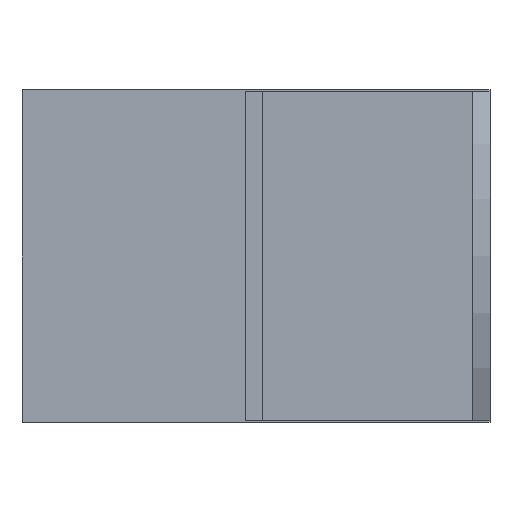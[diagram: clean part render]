
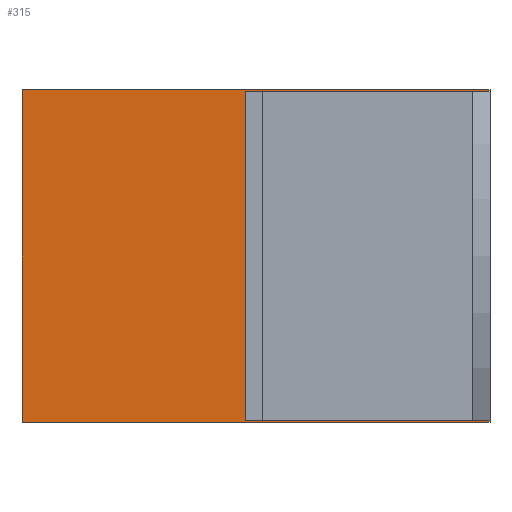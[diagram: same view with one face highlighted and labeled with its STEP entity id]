
A CAD part, front view. The second image highlights one B-rep face of the part: STEP entity #315.
In plain terms, the highlighted planar face has unit normal (0, -1, 0).
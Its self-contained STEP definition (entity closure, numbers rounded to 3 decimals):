
#18 = AXIS2_PLACEMENT_3D ( 'NONE', #1159, #976, #424 ) ;
#19 = DIRECTION ( 'NONE',  ( 0., 0., 1. ) ) ;
#33 = LINE ( 'NONE', #278, #460 ) ;
#52 = DIRECTION ( 'NONE',  ( 1., 0., 0. ) ) ;
#58 = ORIENTED_EDGE ( 'NONE', *, *, #1023, .T. ) ;
#95 = CARTESIAN_POINT ( 'NONE',  ( -16.3, 16.3, -21.9 ) ) ;
#97 = CARTESIAN_POINT ( 'NONE',  ( 14., 16.3, -22.1 ) ) ;
#99 = EDGE_CURVE ( 'NONE', #1172, #782, #33, .T. ) ;
#133 = FACE_OUTER_BOUND ( 'NONE', #205, .T. ) ;
#163 = DIRECTION ( 'NONE',  ( 0., 0., 1. ) ) ;
#167 = EDGE_CURVE ( 'NONE', #660, #951, #767, .T. ) ;
#171 = LINE ( 'NONE', #842, #1111 ) ;
#182 = VECTOR ( 'NONE', #345, 1000. ) ;
#205 = EDGE_LOOP ( 'NONE', ( #557, #58, #1059, #729, #438, #349, #1140, #1143 ) ) ;
#216 = DIRECTION ( 'NONE',  ( 0., 0., 1. ) ) ;
#259 = LINE ( 'NONE', #97, #441 ) ;
#277 = EDGE_CURVE ( 'NONE', #660, #495, #690, .T. ) ;
#278 = CARTESIAN_POINT ( 'NONE',  ( 14., 16.3, 22.1 ) ) ;
#282 = DIRECTION ( 'NONE',  ( -1., 0., 0. ) ) ;
#292 = CARTESIAN_POINT ( 'NONE',  ( -46., 16.3, -22.1 ) ) ;
#315 = ADVANCED_FACE ( 'NONE', ( #133 ), #1166, .T. ) ;
#329 = EDGE_CURVE ( 'NONE', #596, #782, #680, .T. ) ;
#336 = VERTEX_POINT ( 'NONE', #885 ) ;
#345 = DIRECTION ( 'NONE',  ( 1., 0., 0. ) ) ;
#349 = ORIENTED_EDGE ( 'NONE', *, *, #916, .F. ) ;
#378 = DIRECTION ( 'NONE',  ( 0., 0., 1. ) ) ;
#424 = DIRECTION ( 'NONE',  ( 0., 0., -1. ) ) ;
#438 = ORIENTED_EDGE ( 'NONE', *, *, #329, .F. ) ;
#441 = VECTOR ( 'NONE', #469, 1000. ) ;
#444 = VERTEX_POINT ( 'NONE', #738 ) ;
#460 = VECTOR ( 'NONE', #282, 1000. ) ;
#469 = DIRECTION ( 'NONE',  ( -1., 0., 0. ) ) ;
#478 = CARTESIAN_POINT ( 'NONE',  ( 16.3, 16.3, 22.1 ) ) ;
#495 = VERTEX_POINT ( 'NONE', #634 ) ;
#497 = EDGE_CURVE ( 'NONE', #444, #495, #171, .T. ) ;
#557 = ORIENTED_EDGE ( 'NONE', *, *, #167, .T. ) ;
#596 = VERTEX_POINT ( 'NONE', #292 ) ;
#618 = VECTOR ( 'NONE', #216, 1000. ) ;
#624 = CARTESIAN_POINT ( 'NONE',  ( -46., 16.3, 22.1 ) ) ;
#630 = VECTOR ( 'NONE', #163, 1000. ) ;
#634 = CARTESIAN_POINT ( 'NONE',  ( 16.3, 16.3, -21.9 ) ) ;
#654 = VECTOR ( 'NONE', #52, 1000. ) ;
#660 = VERTEX_POINT ( 'NONE', #1163 ) ;
#680 = LINE ( 'NONE', #1056, #618 ) ;
#685 = CARTESIAN_POINT ( 'NONE',  ( -16.3, 16.3, -21.9 ) ) ;
#690 = LINE ( 'NONE', #685, #654 ) ;
#729 = ORIENTED_EDGE ( 'NONE', *, *, #99, .T. ) ;
#738 = CARTESIAN_POINT ( 'NONE',  ( 16.3, 16.3, -22.1 ) ) ;
#754 = VECTOR ( 'NONE', #19, 1000. ) ;
#767 = LINE ( 'NONE', #95, #754 ) ;
#782 = VERTEX_POINT ( 'NONE', #624 ) ;
#806 = CARTESIAN_POINT ( 'NONE',  ( 16.3, 16.3, -89.439 ) ) ;
#842 = CARTESIAN_POINT ( 'NONE',  ( 16.3, 16.3, -89.439 ) ) ;
#885 = CARTESIAN_POINT ( 'NONE',  ( 16.3, 16.3, 21.9 ) ) ;
#900 = CARTESIAN_POINT ( 'NONE',  ( -16.3, 16.3, 21.9 ) ) ;
#904 = LINE ( 'NONE', #900, #182 ) ;
#916 = EDGE_CURVE ( 'NONE', #444, #596, #259, .T. ) ;
#951 = VERTEX_POINT ( 'NONE', #1043 ) ;
#976 = DIRECTION ( 'NONE',  ( 0., -1., 0. ) ) ;
#1000 = LINE ( 'NONE', #806, #630 ) ;
#1023 = EDGE_CURVE ( 'NONE', #951, #336, #904, .T. ) ;
#1043 = CARTESIAN_POINT ( 'NONE',  ( -16.3, 16.3, 21.9 ) ) ;
#1056 = CARTESIAN_POINT ( 'NONE',  ( -46., 16.3, 22.1 ) ) ;
#1059 = ORIENTED_EDGE ( 'NONE', *, *, #1145, .T. ) ;
#1111 = VECTOR ( 'NONE', #378, 1000. ) ;
#1140 = ORIENTED_EDGE ( 'NONE', *, *, #497, .T. ) ;
#1143 = ORIENTED_EDGE ( 'NONE', *, *, #277, .F. ) ;
#1145 = EDGE_CURVE ( 'NONE', #336, #1172, #1000, .T. ) ;
#1159 = CARTESIAN_POINT ( 'NONE',  ( 14., 16.3, 22.1 ) ) ;
#1163 = CARTESIAN_POINT ( 'NONE',  ( -16.3, 16.3, -21.9 ) ) ;
#1166 = PLANE ( 'NONE',  #18 ) ;
#1172 = VERTEX_POINT ( 'NONE', #478 ) ;
